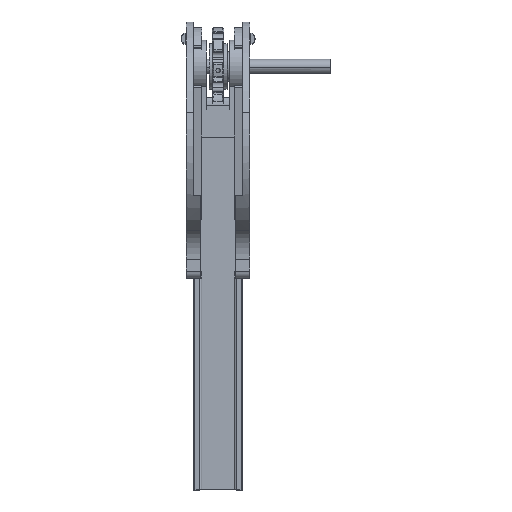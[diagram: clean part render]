
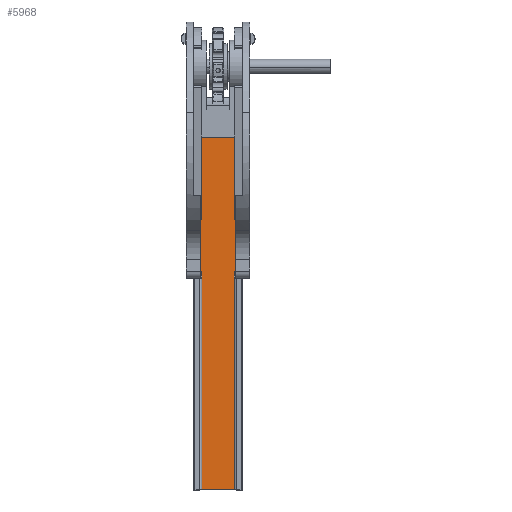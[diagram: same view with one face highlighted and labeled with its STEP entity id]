
A CAD part, front view. The second image highlights one B-rep face of the part: STEP entity #5968.
In plain terms, the highlighted planar face has unit normal (0, -1, 0).
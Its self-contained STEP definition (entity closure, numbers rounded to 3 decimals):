
#51 = CARTESIAN_POINT ( 'NONE',  ( -29.5, 3.7, -600. ) ) ;
#228 = CARTESIAN_POINT ( 'NONE',  ( 29.5, 3.7, -300. ) ) ;
#2562 = AXIS2_PLACEMENT_3D ( 'NONE', #4581, #4579, #4578 ) ;
#3321 = CARTESIAN_POINT ( 'NONE',  ( -29.5, 3.7, -300. ) ) ;
#3322 = DIRECTION ( 'NONE',  ( -1., 0., 0. ) ) ;
#3323 = CARTESIAN_POINT ( 'NONE',  ( -35., 3.7, -600. ) ) ;
#3324 = DIRECTION ( 'NONE',  ( 0., 0., 1. ) ) ;
#3331 = CARTESIAN_POINT ( 'NONE',  ( -29.5, 3.7, -300. ) ) ;
#3332 = DIRECTION ( 'NONE',  ( -1., 0., 0. ) ) ;
#3337 = CARTESIAN_POINT ( 'NONE',  ( 35., 3.7, -600. ) ) ;
#3338 = DIRECTION ( 'NONE',  ( 0., 0., -1. ) ) ;
#3355 = CARTESIAN_POINT ( 'NONE',  ( -29.5, 3.7, -600. ) ) ;
#3356 = DIRECTION ( 'NONE',  ( -1., 0., 0. ) ) ;
#4578 = DIRECTION ( 'NONE',  ( 0., 0., -1. ) ) ;
#4579 = DIRECTION ( 'NONE',  ( 0., 1., 0. ) ) ;
#4581 = CARTESIAN_POINT ( 'NONE',  ( -29.5, 3.7, -600. ) ) ;
#4582 = PLANE ( 'NONE',  #2562 ) ;
#5637 = EDGE_LOOP ( 'NONE', ( #10461, #10456, #10442, #10436, #10433, #10417, #10403, #10399 ) ) ;
#5968 = ADVANCED_FACE ( 'NONE', ( #17172 ), #4582, .F. ) ;
#6897 = CARTESIAN_POINT ( 'NONE',  ( -29.5, 3.7, -300. ) ) ;
#6987 = CARTESIAN_POINT ( 'NONE',  ( -35., 3.7, -100. ) ) ;
#7021 = CARTESIAN_POINT ( 'NONE',  ( 35., 3.7, -100. ) ) ;
#7039 = CARTESIAN_POINT ( 'NONE',  ( -35., 3.7, -300. ) ) ;
#7150 = CARTESIAN_POINT ( 'NONE',  ( 35., 3.7, -300. ) ) ;
#7308 = CARTESIAN_POINT ( 'NONE',  ( 29.5, 3.7, -600. ) ) ;
#7700 = CARTESIAN_POINT ( 'NONE',  ( -29.5, 3.7, -100. ) ) ;
#7701 = DIRECTION ( 'NONE',  ( 1., 0., 0. ) ) ;
#8190 = CARTESIAN_POINT ( 'NONE',  ( 29.5, 3.7, -600. ) ) ;
#8191 = DIRECTION ( 'NONE',  ( 0., 0., -1. ) ) ;
#8195 = CARTESIAN_POINT ( 'NONE',  ( -29.5, 3.7, -600. ) ) ;
#8196 = DIRECTION ( 'NONE',  ( 0., 0., 1. ) ) ;
#8641 = EDGE_CURVE ( 'NONE', #12503, #12522, #16931, .T. ) ;
#8802 = EDGE_CURVE ( 'NONE', #14787, #12687, #12194, .T. ) ;
#8804 = EDGE_CURVE ( 'NONE', #14610, #12433, #12191, .T. ) ;
#10074 = LINE ( 'NONE', #3321, #10075 ) ;
#10075 = VECTOR ( 'NONE', #3322, 1000. ) ;
#10076 = LINE ( 'NONE', #3323, #10077 ) ;
#10077 = VECTOR ( 'NONE', #3324, 1000. ) ;
#10084 = LINE ( 'NONE', #3331, #10085 ) ;
#10085 = VECTOR ( 'NONE', #3332, 1000. ) ;
#10090 = LINE ( 'NONE', #3337, #10091 ) ;
#10091 = VECTOR ( 'NONE', #3338, 1000. ) ;
#10108 = LINE ( 'NONE', #3355, #10109 ) ;
#10109 = VECTOR ( 'NONE', #3356, 1000. ) ;
#10399 = ORIENTED_EDGE ( 'NONE', *, *, #8802, .F. ) ;
#10403 = ORIENTED_EDGE ( 'NONE', *, *, #13098, .F. ) ;
#10417 = ORIENTED_EDGE ( 'NONE', *, *, #8804, .F. ) ;
#10433 = ORIENTED_EDGE ( 'NONE', *, *, #13081, .F. ) ;
#10436 = ORIENTED_EDGE ( 'NONE', *, *, #13082, .F. ) ;
#10442 = ORIENTED_EDGE ( 'NONE', *, *, #8641, .F. ) ;
#10456 = ORIENTED_EDGE ( 'NONE', *, *, #13089, .F. ) ;
#10461 = ORIENTED_EDGE ( 'NONE', *, *, #13086, .F. ) ;
#12189 = VECTOR ( 'NONE', #8196, 1000. ) ;
#12191 = LINE ( 'NONE', #8195, #12189 ) ;
#12192 = VECTOR ( 'NONE', #8191, 1000. ) ;
#12194 = LINE ( 'NONE', #8190, #12192 ) ;
#12433 = VERTEX_POINT ( 'NONE', #6897 ) ;
#12503 = VERTEX_POINT ( 'NONE', #6987 ) ;
#12522 = VERTEX_POINT ( 'NONE', #7021 ) ;
#12533 = VERTEX_POINT ( 'NONE', #7039 ) ;
#12598 = VERTEX_POINT ( 'NONE', #7150 ) ;
#12687 = VERTEX_POINT ( 'NONE', #7308 ) ;
#13081 = EDGE_CURVE ( 'NONE', #12433, #12533, #10074, .T. ) ;
#13082 = EDGE_CURVE ( 'NONE', #12533, #12503, #10076, .T. ) ;
#13086 = EDGE_CURVE ( 'NONE', #12598, #14787, #10084, .T. ) ;
#13089 = EDGE_CURVE ( 'NONE', #12522, #12598, #10090, .T. ) ;
#13098 = EDGE_CURVE ( 'NONE', #12687, #14610, #10108, .T. ) ;
#14610 = VERTEX_POINT ( 'NONE', #51 ) ;
#14787 = VERTEX_POINT ( 'NONE', #228 ) ;
#16930 = VECTOR ( 'NONE', #7701, 1000. ) ;
#16931 = LINE ( 'NONE', #7700, #16930 ) ;
#17172 = FACE_OUTER_BOUND ( 'NONE', #5637, .T. ) ;
